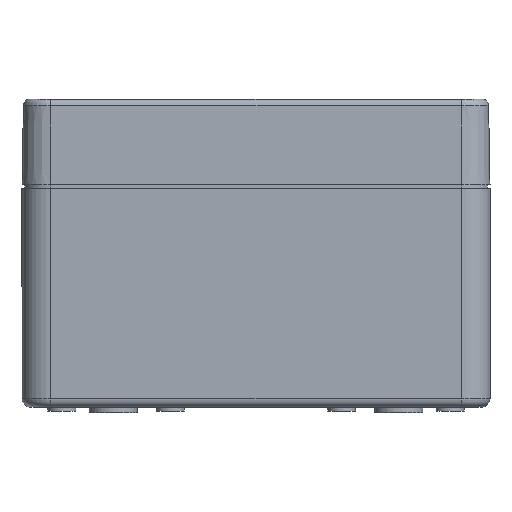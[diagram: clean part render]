
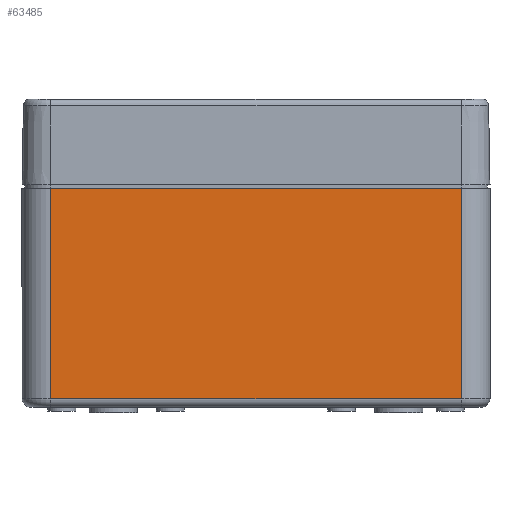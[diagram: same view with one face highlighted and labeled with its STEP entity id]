
A CAD part, front view. The second image highlights one B-rep face of the part: STEP entity #63485.
In plain terms, the highlighted planar face has unit normal (0, -1, 0).
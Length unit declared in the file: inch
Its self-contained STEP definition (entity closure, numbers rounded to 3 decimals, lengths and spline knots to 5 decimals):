
#1366 = DIRECTION ( 'NONE',  ( -1., 0., 0. ) ) ;
#4319 = ORIENTED_EDGE ( 'NONE', *, *, #28627, .F. ) ;
#5075 = VERTEX_POINT ( 'NONE', #21444 ) ;
#6656 = VECTOR ( 'NONE', #58966, 39.37008 ) ;
#7739 = VECTOR ( 'NONE', #1366, 39.37008 ) ;
#9084 = CARTESIAN_POINT ( 'NONE',  ( 1.41732, -2.40157, -1.51575 ) ) ;
#9393 = VECTOR ( 'NONE', #31301, 39.37008 ) ;
#17801 = CARTESIAN_POINT ( 'NONE',  ( 1.41732, -2.40157, -0.06693 ) ) ;
#17905 = EDGE_LOOP ( 'NONE', ( #23076, #63880, #49488, #4319 ) ) ;
#19385 = LINE ( 'NONE', #17801, #6656 ) ;
#20269 = DIRECTION ( 'NONE',  ( 0., 0., -1. ) ) ;
#20315 = CARTESIAN_POINT ( 'NONE',  ( -1.41732, -2.40157, -0.06693 ) ) ;
#21444 = CARTESIAN_POINT ( 'NONE',  ( 1.41732, -2.40157, -0.06693 ) ) ;
#21527 = CARTESIAN_POINT ( 'NONE',  ( -1.41732, -2.40157, 0. ) ) ;
#23076 = ORIENTED_EDGE ( 'NONE', *, *, #39719, .F. ) ;
#25218 = VERTEX_POINT ( 'NONE', #20315 ) ;
#28627 = EDGE_CURVE ( 'NONE', #5075, #30358, #31036, .T. ) ;
#30358 = VERTEX_POINT ( 'NONE', #9084 ) ;
#30408 = VECTOR ( 'NONE', #20269, 39.37008 ) ;
#30462 = EDGE_CURVE ( 'NONE', #25218, #41556, #36037, .T. ) ;
#31036 = LINE ( 'NONE', #57365, #30408 ) ;
#31301 = DIRECTION ( 'NONE',  ( 0., 0., -1. ) ) ;
#32628 = DIRECTION ( 'NONE',  ( 0., 0., 1. ) ) ;
#32979 = LINE ( 'NONE', #48488, #7739 ) ;
#34041 = CARTESIAN_POINT ( 'NONE',  ( -1.41732, -2.40157, -1.51575 ) ) ;
#36037 = LINE ( 'NONE', #21527, #9393 ) ;
#38029 = PLANE ( 'NONE',  #58177 ) ;
#39719 = EDGE_CURVE ( 'NONE', #25218, #5075, #19385, .T. ) ;
#40679 = EDGE_CURVE ( 'NONE', #30358, #41556, #32979, .T. ) ;
#41556 = VERTEX_POINT ( 'NONE', #34041 ) ;
#42763 = CARTESIAN_POINT ( 'NONE',  ( 1.41732, -2.40157, 0. ) ) ;
#47477 = FACE_OUTER_BOUND ( 'NONE', #17905, .T. ) ;
#48488 = CARTESIAN_POINT ( 'NONE',  ( 1.41732, -2.40157, -1.51575 ) ) ;
#49488 = ORIENTED_EDGE ( 'NONE', *, *, #40679, .F. ) ;
#57365 = CARTESIAN_POINT ( 'NONE',  ( 1.41732, -2.40157, 0. ) ) ;
#58177 = AXIS2_PLACEMENT_3D ( 'NONE', #42763, #62702, #32628 ) ;
#58966 = DIRECTION ( 'NONE',  ( 1., 0., 0. ) ) ;
#62702 = DIRECTION ( 'NONE',  ( 0., 1., 0. ) ) ;
#63485 = ADVANCED_FACE ( 'NONE', ( #47477 ), #38029, .F. ) ;
#63880 = ORIENTED_EDGE ( 'NONE', *, *, #30462, .T. ) ;
